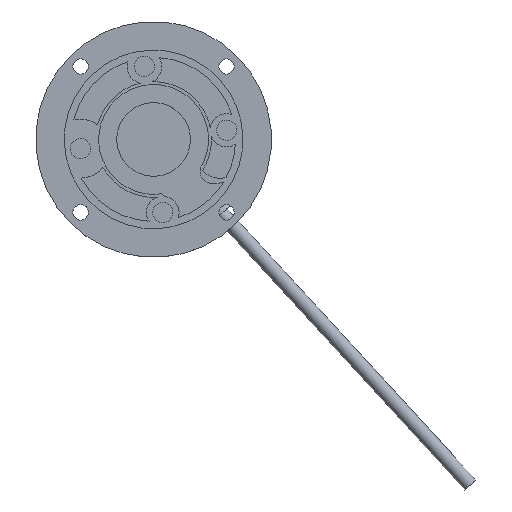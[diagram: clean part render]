
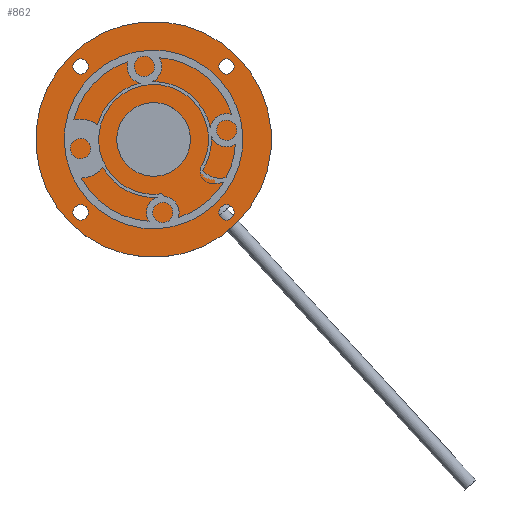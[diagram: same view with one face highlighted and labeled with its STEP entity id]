
A CAD part, top view. The second image highlights one B-rep face of the part: STEP entity #862.
In plain terms, the highlighted planar face has unit normal (0, 0, 1).
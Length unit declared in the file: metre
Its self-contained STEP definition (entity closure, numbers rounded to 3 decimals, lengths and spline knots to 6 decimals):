
#41 = EDGE_LOOP ( 'NONE', ( #637, #1548 ) ) ;
#45 = FACE_BOUND ( 'NONE', #1226, .T. ) ;
#75 = DIRECTION ( 'NONE',  ( 0., 0., -1. ) ) ;
#122 = DIRECTION ( 'NONE',  ( 0., -1., 0. ) ) ;
#155 = DIRECTION ( 'NONE',  ( 0., -1., 0. ) ) ;
#166 = VERTEX_POINT ( 'NONE', #1817 ) ;
#185 = CARTESIAN_POINT ( 'NONE',  ( 0., -0.01, 0. ) ) ;
#207 = DIRECTION ( 'NONE',  ( 0., -1., 0. ) ) ;
#244 = DIRECTION ( 'NONE',  ( 0., -1., 0. ) ) ;
#275 = CARTESIAN_POINT ( 'NONE',  ( 0.017991, 0.021455, 0. ) ) ;
#291 = EDGE_CURVE ( 'NONE', #1574, #3237, #2036, .T. ) ;
#296 = CIRCLE ( 'NONE', #2535, 0.0021 ) ;
#301 = EDGE_CURVE ( 'NONE', #868, #305, #2081, .T. ) ;
#305 = VERTEX_POINT ( 'NONE', #3308 ) ;
#318 = CARTESIAN_POINT ( 'NONE',  ( 0.021455, -0.015891, 0. ) ) ;
#333 = FACE_BOUND ( 'NONE', #2084, .T. ) ;
#352 = DIRECTION ( 'NONE',  ( 0., 0., -1. ) ) ;
#393 = CARTESIAN_POINT ( 'NONE',  ( 0.021455, -0.017991, 0. ) ) ;
#400 = AXIS2_PLACEMENT_3D ( 'NONE', #1119, #1052, #475 ) ;
#411 = CARTESIAN_POINT ( 'NONE',  ( 0., 0., 0. ) ) ;
#475 = DIRECTION ( 'NONE',  ( 0., -1., 0. ) ) ;
#482 = CIRCLE ( 'NONE', #529, 0.032 ) ;
#511 = FACE_BOUND ( 'NONE', #41, .T. ) ;
#529 = AXIS2_PLACEMENT_3D ( 'NONE', #411, #1236, #1808 ) ;
#542 = DIRECTION ( 'NONE',  ( 0., -1., 0. ) ) ;
#580 = CARTESIAN_POINT ( 'NONE',  ( 0., 0., 0. ) ) ;
#637 = ORIENTED_EDGE ( 'NONE', *, *, #826, .T. ) ;
#722 = EDGE_CURVE ( 'NONE', #166, #1719, #3444, .T. ) ;
#729 = CARTESIAN_POINT ( 'NONE',  ( 0., 0., 0. ) ) ;
#769 = CARTESIAN_POINT ( 'NONE',  ( -0.017991, -0.021455, 0. ) ) ;
#811 = AXIS2_PLACEMENT_3D ( 'NONE', #729, #1019, #155 ) ;
#826 = EDGE_CURVE ( 'NONE', #3237, #1574, #1268, .T. ) ;
#862 = ADVANCED_FACE ( 'NONE', ( #2483, #511, #333, #45, #2650, #1741 ), #917, .T. ) ;
#867 = CIRCLE ( 'NONE', #3511, 0.0021 ) ;
#868 = VERTEX_POINT ( 'NONE', #3367 ) ;
#917 = PLANE ( 'NONE',  #3242 ) ;
#931 = DIRECTION ( 'NONE',  ( 0., -1., 0. ) ) ;
#984 = EDGE_CURVE ( 'NONE', #1223, #2673, #3538, .T. ) ;
#1019 = DIRECTION ( 'NONE',  ( 0., 0., 1. ) ) ;
#1052 = DIRECTION ( 'NONE',  ( 0., 0., -1. ) ) ;
#1119 = CARTESIAN_POINT ( 'NONE',  ( 0.017991, 0.021455, 0. ) ) ;
#1122 = EDGE_CURVE ( 'NONE', #3103, #2478, #2495, .T. ) ;
#1163 = AXIS2_PLACEMENT_3D ( 'NONE', #3382, #75, #3365 ) ;
#1223 = VERTEX_POINT ( 'NONE', #3090 ) ;
#1226 = EDGE_LOOP ( 'NONE', ( #2767, #1893 ) ) ;
#1236 = DIRECTION ( 'NONE',  ( 0., 0., 1. ) ) ;
#1268 = CIRCLE ( 'NONE', #3187, 0.0021 ) ;
#1328 = EDGE_CURVE ( 'NONE', #1719, #166, #3548, .T. ) ;
#1380 = AXIS2_PLACEMENT_3D ( 'NONE', #2691, #3272, #207 ) ;
#1394 = EDGE_LOOP ( 'NONE', ( #2947, #3089 ) ) ;
#1414 = DIRECTION ( 'NONE',  ( 0., -1., 0. ) ) ;
#1460 = ORIENTED_EDGE ( 'NONE', *, *, #722, .F. ) ;
#1493 = CARTESIAN_POINT ( 'NONE',  ( -0.032384, -0.032384, 0. ) ) ;
#1509 = EDGE_LOOP ( 'NONE', ( #2392, #2846 ) ) ;
#1548 = ORIENTED_EDGE ( 'NONE', *, *, #291, .T. ) ;
#1574 = VERTEX_POINT ( 'NONE', #1797 ) ;
#1680 = DIRECTION ( 'NONE',  ( 0., 0., -1. ) ) ;
#1704 = AXIS2_PLACEMENT_3D ( 'NONE', #2263, #1680, #1414 ) ;
#1715 = CARTESIAN_POINT ( 'NONE',  ( -0.021455, 0.020091, 0. ) ) ;
#1719 = VERTEX_POINT ( 'NONE', #185 ) ;
#1741 = FACE_OUTER_BOUND ( 'NONE', #1394, .T. ) ;
#1797 = CARTESIAN_POINT ( 'NONE',  ( -0.017991, -0.019355, 0. ) ) ;
#1807 = AXIS2_PLACEMENT_3D ( 'NONE', #393, #3162, #122 ) ;
#1808 = DIRECTION ( 'NONE',  ( 0., -1., 0. ) ) ;
#1817 = CARTESIAN_POINT ( 'NONE',  ( 0., 0.01, 0. ) ) ;
#1893 = ORIENTED_EDGE ( 'NONE', *, *, #1990, .T. ) ;
#1895 = ORIENTED_EDGE ( 'NONE', *, *, #1328, .F. ) ;
#1968 = DIRECTION ( 'NONE',  ( 0., -1., 0. ) ) ;
#1969 = CARTESIAN_POINT ( 'NONE',  ( 0., 0.032, 0. ) ) ;
#1984 = DIRECTION ( 'NONE',  ( 0., 0., 1. ) ) ;
#1990 = EDGE_CURVE ( 'NONE', #305, #868, #296, .T. ) ;
#2018 = DIRECTION ( 'NONE',  ( 0., -1., 0. ) ) ;
#2032 = ORIENTED_EDGE ( 'NONE', *, *, #984, .T. ) ;
#2036 = CIRCLE ( 'NONE', #2896, 0.0021 ) ;
#2081 = CIRCLE ( 'NONE', #400, 0.0021 ) ;
#2084 = EDGE_LOOP ( 'NONE', ( #2032, #3456 ) ) ;
#2123 = DIRECTION ( 'NONE',  ( 0., 0., -1. ) ) ;
#2162 = EDGE_CURVE ( 'NONE', #2673, #1223, #2272, .T. ) ;
#2243 = DIRECTION ( 'NONE',  ( 0., 0., -1. ) ) ;
#2263 = CARTESIAN_POINT ( 'NONE',  ( -0.021455, 0.017991, 0. ) ) ;
#2272 = CIRCLE ( 'NONE', #1163, 0.0021 ) ;
#2292 = CARTESIAN_POINT ( 'NONE',  ( -0.021455, 0.015891, 0. ) ) ;
#2392 = ORIENTED_EDGE ( 'NONE', *, *, #3098, .T. ) ;
#2396 = CARTESIAN_POINT ( 'NONE',  ( 0., -0.032, 0. ) ) ;
#2478 = VERTEX_POINT ( 'NONE', #2396 ) ;
#2483 = FACE_BOUND ( 'NONE', #1509, .T. ) ;
#2495 = CIRCLE ( 'NONE', #811, 0.032 ) ;
#2508 = CARTESIAN_POINT ( 'NONE',  ( -0.021455, 0.017991, 0. ) ) ;
#2529 = DIRECTION ( 'NONE',  ( 0., 0., -1. ) ) ;
#2535 = AXIS2_PLACEMENT_3D ( 'NONE', #275, #2243, #1968 ) ;
#2566 = CARTESIAN_POINT ( 'NONE',  ( -0.017991, -0.021455, 0. ) ) ;
#2650 = FACE_BOUND ( 'NONE', #3452, .T. ) ;
#2673 = VERTEX_POINT ( 'NONE', #318 ) ;
#2683 = CIRCLE ( 'NONE', #1704, 0.0021 ) ;
#2691 = CARTESIAN_POINT ( 'NONE',  ( 0., 0., 0. ) ) ;
#2707 = EDGE_CURVE ( 'NONE', #3036, #3180, #867, .T. ) ;
#2767 = ORIENTED_EDGE ( 'NONE', *, *, #301, .T. ) ;
#2815 = CARTESIAN_POINT ( 'NONE',  ( -0.017991, -0.023555, 0. ) ) ;
#2843 = DIRECTION ( 'NONE',  ( 0., 0., 1. ) ) ;
#2846 = ORIENTED_EDGE ( 'NONE', *, *, #2707, .T. ) ;
#2855 = DIRECTION ( 'NONE',  ( 1., 0., 0. ) ) ;
#2896 = AXIS2_PLACEMENT_3D ( 'NONE', #769, #2123, #542 ) ;
#2947 = ORIENTED_EDGE ( 'NONE', *, *, #3344, .T. ) ;
#3013 = AXIS2_PLACEMENT_3D ( 'NONE', #580, #2843, #931 ) ;
#3036 = VERTEX_POINT ( 'NONE', #1715 ) ;
#3089 = ORIENTED_EDGE ( 'NONE', *, *, #1122, .T. ) ;
#3090 = CARTESIAN_POINT ( 'NONE',  ( 0.021455, -0.020091, 0. ) ) ;
#3098 = EDGE_CURVE ( 'NONE', #3180, #3036, #2683, .T. ) ;
#3103 = VERTEX_POINT ( 'NONE', #1969 ) ;
#3162 = DIRECTION ( 'NONE',  ( 0., 0., -1. ) ) ;
#3180 = VERTEX_POINT ( 'NONE', #2292 ) ;
#3187 = AXIS2_PLACEMENT_3D ( 'NONE', #2566, #352, #2018 ) ;
#3237 = VERTEX_POINT ( 'NONE', #2815 ) ;
#3242 = AXIS2_PLACEMENT_3D ( 'NONE', #1493, #1984, #2855 ) ;
#3272 = DIRECTION ( 'NONE',  ( 0., 0., 1. ) ) ;
#3308 = CARTESIAN_POINT ( 'NONE',  ( 0.017991, 0.023555, 0. ) ) ;
#3344 = EDGE_CURVE ( 'NONE', #2478, #3103, #482, .T. ) ;
#3365 = DIRECTION ( 'NONE',  ( 0., -1., 0. ) ) ;
#3367 = CARTESIAN_POINT ( 'NONE',  ( 0.017991, 0.019355, 0. ) ) ;
#3382 = CARTESIAN_POINT ( 'NONE',  ( 0.021455, -0.017991, 0. ) ) ;
#3444 = CIRCLE ( 'NONE', #3013, 0.01 ) ;
#3452 = EDGE_LOOP ( 'NONE', ( #1895, #1460 ) ) ;
#3456 = ORIENTED_EDGE ( 'NONE', *, *, #2162, .T. ) ;
#3511 = AXIS2_PLACEMENT_3D ( 'NONE', #2508, #2529, #244 ) ;
#3538 = CIRCLE ( 'NONE', #1807, 0.0021 ) ;
#3548 = CIRCLE ( 'NONE', #1380, 0.01 ) ;
